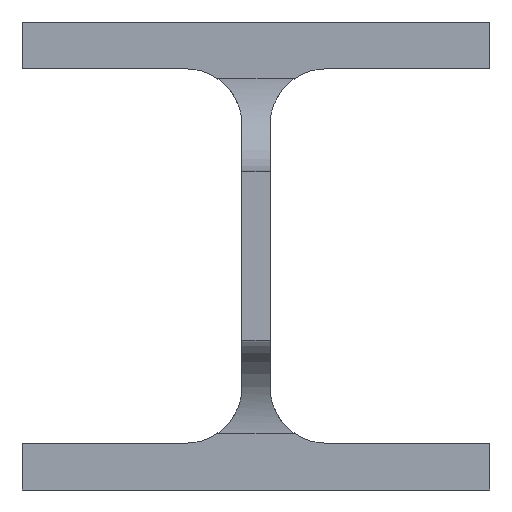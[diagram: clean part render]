
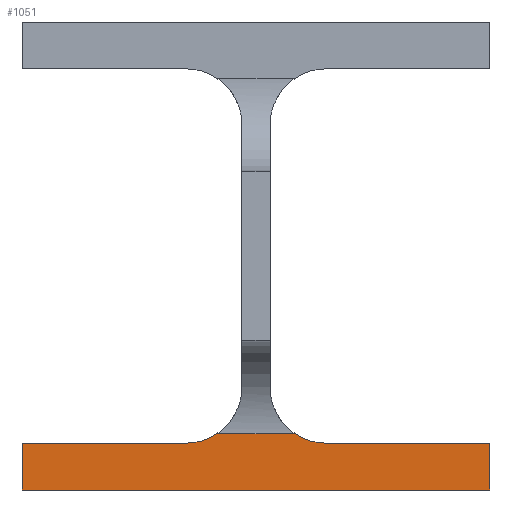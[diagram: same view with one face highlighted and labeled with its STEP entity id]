
A CAD part, front view. The second image highlights one B-rep face of the part: STEP entity #1051.
In plain terms, the highlighted planar face has unit normal (0, -1, 0).
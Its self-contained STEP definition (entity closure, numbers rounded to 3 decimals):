
#12 = DIRECTION ( 'NONE',  ( 0., 0., -1. ) ) ;
#99 = EDGE_CURVE ( 'NONE', #420, #2470, #3031, .T. ) ;
#115 = CARTESIAN_POINT ( 'NONE',  ( 9990., 52., 2312. ) ) ;
#164 = LINE ( 'NONE', #561, #2650 ) ;
#371 = LINE ( 'NONE', #2619, #717 ) ;
#420 = VERTEX_POINT ( 'NONE', #1654 ) ;
#463 = PLANE ( 'NONE',  #1835 ) ;
#487 = DIRECTION ( 'NONE',  ( 0., 0., -1. ) ) ;
#561 = CARTESIAN_POINT ( 'NONE',  ( 9925., 52., 2290. ) ) ;
#628 = CARTESIAN_POINT ( 'NONE',  ( 9960., 52., 2300. ) ) ;
#633 = VERTEX_POINT ( 'NONE', #4512 ) ;
#641 = ORIENTED_EDGE ( 'NONE', *, *, #4534, .T. ) ;
#717 = VECTOR ( 'NONE', #1161, 1000. ) ;
#790 = CARTESIAN_POINT ( 'NONE',  ( 9966.633, 52., 2302. ) ) ;
#885 = VECTOR ( 'NONE', #2096, 1000. ) ;
#929 = CARTESIAN_POINT ( 'NONE',  ( 11000., 52., 2300. ) ) ;
#1051 = ADVANCED_FACE ( 'NONE', ( #1308 ), #463, .T. ) ;
#1105 = LINE ( 'NONE', #1935, #4161 ) ;
#1154 = DIRECTION ( 'NONE',  ( 1., 0., 0. ) ) ;
#1161 = DIRECTION ( 'NONE',  ( -1., 0., 0. ) ) ;
#1173 = CARTESIAN_POINT ( 'NONE',  ( 10025., 52., 2300. ) ) ;
#1216 = VERTEX_POINT ( 'NONE', #628 ) ;
#1257 = CARTESIAN_POINT ( 'NONE',  ( 9925., 52., 2290. ) ) ;
#1308 = FACE_OUTER_BOUND ( 'NONE', #2699, .T. ) ;
#1312 = LINE ( 'NONE', #4369, #885 ) ;
#1343 = EDGE_CURVE ( 'NONE', #4624, #633, #1552, .T. ) ;
#1384 = ORIENTED_EDGE ( 'NONE', *, *, #2700, .T. ) ;
#1436 = AXIS2_PLACEMENT_3D ( 'NONE', #3437, #2346, #12 ) ;
#1450 = ORIENTED_EDGE ( 'NONE', *, *, #3950, .T. ) ;
#1552 = LINE ( 'NONE', #4588, #2078 ) ;
#1654 = CARTESIAN_POINT ( 'NONE',  ( 9983.367, 52., 2302. ) ) ;
#1835 = AXIS2_PLACEMENT_3D ( 'NONE', #929, #2093, #3166 ) ;
#1929 = CIRCLE ( 'NONE', #1436, 12. ) ;
#1935 = CARTESIAN_POINT ( 'NONE',  ( 9990., 52., 2300. ) ) ;
#2078 = VECTOR ( 'NONE', #1154, 1000. ) ;
#2093 = DIRECTION ( 'NONE',  ( 0., -1., 0. ) ) ;
#2096 = DIRECTION ( 'NONE',  ( 0., 0., 1. ) ) ;
#2147 = VERTEX_POINT ( 'NONE', #1173 ) ;
#2258 = CIRCLE ( 'NONE', #2961, 12. ) ;
#2346 = DIRECTION ( 'NONE',  ( 0., 1., 0. ) ) ;
#2419 = DIRECTION ( 'NONE',  ( 0., 0., -1. ) ) ;
#2470 = VERTEX_POINT ( 'NONE', #790 ) ;
#2543 = ORIENTED_EDGE ( 'NONE', *, *, #3404, .T. ) ;
#2619 = CARTESIAN_POINT ( 'NONE',  ( 9925., 52., 2300. ) ) ;
#2650 = VECTOR ( 'NONE', #487, 1000. ) ;
#2699 = EDGE_LOOP ( 'NONE', ( #2543, #1384, #3164, #3749, #641, #4180, #1450, #3069 ) ) ;
#2700 = EDGE_CURVE ( 'NONE', #1216, #3588, #371, .T. ) ;
#2961 = AXIS2_PLACEMENT_3D ( 'NONE', #115, #4295, #2419 ) ;
#3031 = LINE ( 'NONE', #3155, #4790 ) ;
#3069 = ORIENTED_EDGE ( 'NONE', *, *, #99, .T. ) ;
#3155 = CARTESIAN_POINT ( 'NONE',  ( 11000., 52., 2302. ) ) ;
#3164 = ORIENTED_EDGE ( 'NONE', *, *, #3275, .T. ) ;
#3166 = DIRECTION ( 'NONE',  ( 0., 0., -1. ) ) ;
#3275 = EDGE_CURVE ( 'NONE', #3588, #4624, #164, .T. ) ;
#3404 = EDGE_CURVE ( 'NONE', #2470, #1216, #1929, .T. ) ;
#3437 = CARTESIAN_POINT ( 'NONE',  ( 9960., 52., 2312. ) ) ;
#3464 = DIRECTION ( 'NONE',  ( -1., 0., 0. ) ) ;
#3504 = DIRECTION ( 'NONE',  ( -1., 0., 0. ) ) ;
#3588 = VERTEX_POINT ( 'NONE', #4831 ) ;
#3633 = CARTESIAN_POINT ( 'NONE',  ( 9990., 52., 2300. ) ) ;
#3749 = ORIENTED_EDGE ( 'NONE', *, *, #1343, .T. ) ;
#3950 = EDGE_CURVE ( 'NONE', #4404, #420, #2258, .T. ) ;
#4073 = EDGE_CURVE ( 'NONE', #2147, #4404, #1105, .T. ) ;
#4161 = VECTOR ( 'NONE', #3464, 1000. ) ;
#4180 = ORIENTED_EDGE ( 'NONE', *, *, #4073, .T. ) ;
#4295 = DIRECTION ( 'NONE',  ( 0., 1., 0. ) ) ;
#4369 = CARTESIAN_POINT ( 'NONE',  ( 10025., 52., 2300. ) ) ;
#4404 = VERTEX_POINT ( 'NONE', #3633 ) ;
#4512 = CARTESIAN_POINT ( 'NONE',  ( 10025., 52., 2290. ) ) ;
#4534 = EDGE_CURVE ( 'NONE', #633, #2147, #1312, .T. ) ;
#4588 = CARTESIAN_POINT ( 'NONE',  ( 10025., 52., 2290. ) ) ;
#4624 = VERTEX_POINT ( 'NONE', #1257 ) ;
#4790 = VECTOR ( 'NONE', #3504, 1000. ) ;
#4831 = CARTESIAN_POINT ( 'NONE',  ( 9925., 52., 2300. ) ) ;
